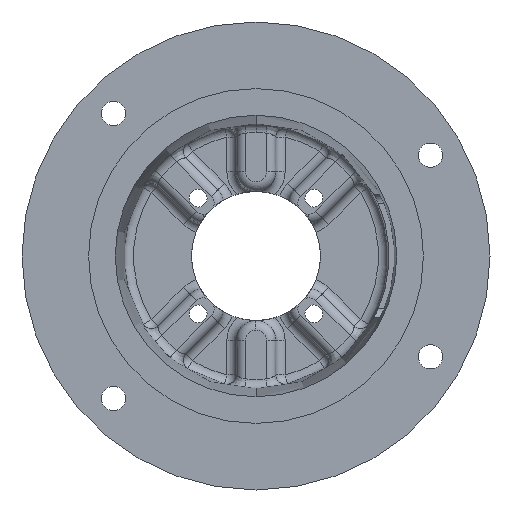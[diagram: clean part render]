
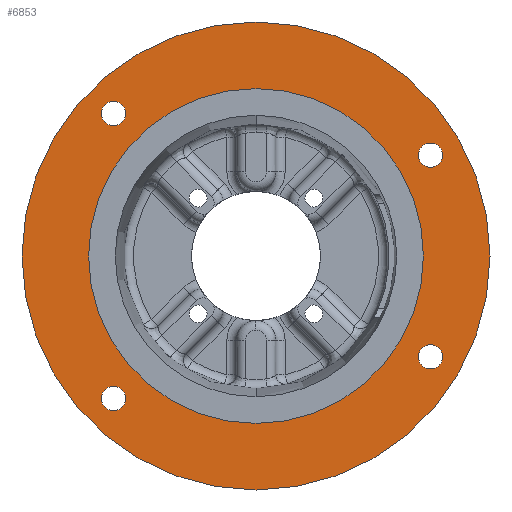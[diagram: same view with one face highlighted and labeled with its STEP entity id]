
A CAD part, front view. The second image highlights one B-rep face of the part: STEP entity #6853.
In plain terms, the highlighted planar face has unit normal (0, -1, 0).
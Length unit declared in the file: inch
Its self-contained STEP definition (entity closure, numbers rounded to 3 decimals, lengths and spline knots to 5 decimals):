
#34 = CARTESIAN_POINT ( 'NONE',  ( 0., 0., 3.2195 ) ) ;
#244 = VERTEX_POINT ( 'NONE', #2734 ) ;
#245 = FACE_BOUND ( 'NONE', #763, .T. ) ;
#247 = AXIS2_PLACEMENT_3D ( 'NONE', #6012, #2789, #6540 ) ;
#256 = AXIS2_PLACEMENT_3D ( 'NONE', #3262, #4335, #1098 ) ;
#288 = CIRCLE ( 'NONE', #1294, 0.23437 ) ;
#356 = DIRECTION ( 'NONE',  ( 0., -1., 0. ) ) ;
#422 = FACE_BOUND ( 'NONE', #1641, .T. ) ;
#434 = EDGE_CURVE ( 'NONE', #5676, #4480, #4771, .T. ) ;
#552 = VERTEX_POINT ( 'NONE', #4528 ) ;
#696 = CARTESIAN_POINT ( 'NONE',  ( -2.74004, 0., 2.74004 ) ) ;
#700 = CARTESIAN_POINT ( 'NONE',  ( -2.74004, 0., -2.74004 ) ) ;
#763 = EDGE_LOOP ( 'NONE', ( #4285, #1160 ) ) ;
#854 = CARTESIAN_POINT ( 'NONE',  ( 0., 0., -3.2195 ) ) ;
#868 = DIRECTION ( 'NONE',  ( 0., -1., 0. ) ) ;
#1035 = AXIS2_PLACEMENT_3D ( 'NONE', #700, #4482, #1240 ) ;
#1098 = DIRECTION ( 'NONE',  ( 0., 0., 1. ) ) ;
#1114 = EDGE_LOOP ( 'NONE', ( #4400, #3376 ) ) ;
#1123 = CARTESIAN_POINT ( 'NONE',  ( 3.35585, 0., -1.9375 ) ) ;
#1156 = CIRCLE ( 'NONE', #4606, 0.23438 ) ;
#1160 = ORIENTED_EDGE ( 'NONE', *, *, #5448, .F. ) ;
#1232 = DIRECTION ( 'NONE',  ( 0., 0., -1. ) ) ;
#1240 = DIRECTION ( 'NONE',  ( 0., 0., -1. ) ) ;
#1287 = EDGE_CURVE ( 'NONE', #552, #2184, #6847, .T. ) ;
#1294 = AXIS2_PLACEMENT_3D ( 'NONE', #5559, #2338, #6104 ) ;
#1575 = CARTESIAN_POINT ( 'NONE',  ( -2.74004, 0., -2.97441 ) ) ;
#1580 = CARTESIAN_POINT ( 'NONE',  ( -2.74004, 0., 2.97441 ) ) ;
#1641 = EDGE_LOOP ( 'NONE', ( #2654, #2058 ) ) ;
#1665 = DIRECTION ( 'NONE',  ( 0., 0., -1. ) ) ;
#1756 = DIRECTION ( 'NONE',  ( 0., -1., 0. ) ) ;
#1804 = AXIS2_PLACEMENT_3D ( 'NONE', #4992, #1756, #5524 ) ;
#1862 = CARTESIAN_POINT ( 'NONE',  ( 0., 0., 0. ) ) ;
#1885 = EDGE_CURVE ( 'NONE', #5402, #244, #6100, .T. ) ;
#1888 = CARTESIAN_POINT ( 'NONE',  ( -2.74004, 0., 2.50566 ) ) ;
#1947 = AXIS2_PLACEMENT_3D ( 'NONE', #1862, #5625, #2410 ) ;
#1988 = VERTEX_POINT ( 'NONE', #1888 ) ;
#2043 = ORIENTED_EDGE ( 'NONE', *, *, #1287, .T. ) ;
#2058 = ORIENTED_EDGE ( 'NONE', *, *, #1885, .F. ) ;
#2122 = EDGE_CURVE ( 'NONE', #4480, #5676, #5211, .T. ) ;
#2184 = VERTEX_POINT ( 'NONE', #6329 ) ;
#2297 = EDGE_CURVE ( 'NONE', #5802, #4602, #3273, .T. ) ;
#2306 = AXIS2_PLACEMENT_3D ( 'NONE', #3603, #356, #4138 ) ;
#2337 = EDGE_CURVE ( 'NONE', #244, #5402, #2765, .T. ) ;
#2338 = DIRECTION ( 'NONE',  ( 0., -1., 0. ) ) ;
#2410 = DIRECTION ( 'NONE',  ( 0., 0., -1. ) ) ;
#2654 = ORIENTED_EDGE ( 'NONE', *, *, #2337, .F. ) ;
#2690 = CARTESIAN_POINT ( 'NONE',  ( 0., 0., 0. ) ) ;
#2705 = EDGE_CURVE ( 'NONE', #4746, #4396, #288, .T. ) ;
#2734 = CARTESIAN_POINT ( 'NONE',  ( 3.35585, 0., -2.17187 ) ) ;
#2765 = CIRCLE ( 'NONE', #6267, 0.23438 ) ;
#2789 = DIRECTION ( 'NONE',  ( 0., -1., 0. ) ) ;
#2797 = CARTESIAN_POINT ( 'NONE',  ( 0., 0., 0. ) ) ;
#3129 = ORIENTED_EDGE ( 'NONE', *, *, #5862, .T. ) ;
#3143 = EDGE_LOOP ( 'NONE', ( #6597, #4689 ) ) ;
#3147 = FACE_BOUND ( 'NONE', #3905, .T. ) ;
#3231 = DIRECTION ( 'NONE',  ( 0., 0., -1. ) ) ;
#3255 = DIRECTION ( 'NONE',  ( 0., -1., 0. ) ) ;
#3262 = CARTESIAN_POINT ( 'NONE',  ( -4.5, 0., 0. ) ) ;
#3273 = CIRCLE ( 'NONE', #4470, 3.2195 ) ;
#3292 = EDGE_CURVE ( 'NONE', #4396, #4746, #4214, .T. ) ;
#3344 = DIRECTION ( 'NONE',  ( 0., 0., -1. ) ) ;
#3376 = ORIENTED_EDGE ( 'NONE', *, *, #2705, .F. ) ;
#3603 = CARTESIAN_POINT ( 'NONE',  ( 3.35585, 0., 1.9375 ) ) ;
#3886 = AXIS2_PLACEMENT_3D ( 'NONE', #1123, #4907, #1665 ) ;
#3905 = EDGE_LOOP ( 'NONE', ( #4974, #5414 ) ) ;
#3929 = VERTEX_POINT ( 'NONE', #1580 ) ;
#4097 = CARTESIAN_POINT ( 'NONE',  ( -2.74004, 0., 2.74004 ) ) ;
#4138 = DIRECTION ( 'NONE',  ( 0., 0., -1. ) ) ;
#4214 = CIRCLE ( 'NONE', #1035, 0.23437 ) ;
#4231 = EDGE_CURVE ( 'NONE', #1988, #3929, #6555, .T. ) ;
#4285 = ORIENTED_EDGE ( 'NONE', *, *, #4231, .F. ) ;
#4335 = DIRECTION ( 'NONE',  ( 0., 1., 0. ) ) ;
#4396 = VERTEX_POINT ( 'NONE', #1575 ) ;
#4397 = FACE_OUTER_BOUND ( 'NONE', #5752, .T. ) ;
#4400 = ORIENTED_EDGE ( 'NONE', *, *, #3292, .F. ) ;
#4470 = AXIS2_PLACEMENT_3D ( 'NONE', #2690, #6440, #3231 ) ;
#4477 = DIRECTION ( 'NONE',  ( 0., -1., 0. ) ) ;
#4480 = VERTEX_POINT ( 'NONE', #5621 ) ;
#4482 = DIRECTION ( 'NONE',  ( 0., -1., 0. ) ) ;
#4528 = CARTESIAN_POINT ( 'NONE',  ( 0., 0., 4.5 ) ) ;
#4602 = VERTEX_POINT ( 'NONE', #854 ) ;
#4606 = AXIS2_PLACEMENT_3D ( 'NONE', #696, #4477, #1232 ) ;
#4652 = DIRECTION ( 'NONE',  ( 0., 0., -1. ) ) ;
#4689 = ORIENTED_EDGE ( 'NONE', *, *, #2297, .F. ) ;
#4746 = VERTEX_POINT ( 'NONE', #6987 ) ;
#4771 = CIRCLE ( 'NONE', #247, 0.23438 ) ;
#4800 = PLANE ( 'NONE',  #256 ) ;
#4907 = DIRECTION ( 'NONE',  ( 0., -1., 0. ) ) ;
#4974 = ORIENTED_EDGE ( 'NONE', *, *, #2122, .F. ) ;
#4992 = CARTESIAN_POINT ( 'NONE',  ( 0., 0., 0. ) ) ;
#5208 = CARTESIAN_POINT ( 'NONE',  ( 3.35585, 0., 2.17188 ) ) ;
#5211 = CIRCLE ( 'NONE', #2306, 0.23438 ) ;
#5234 = AXIS2_PLACEMENT_3D ( 'NONE', #2797, #6546, #3344 ) ;
#5338 = AXIS2_PLACEMENT_3D ( 'NONE', #4097, #868, #4652 ) ;
#5402 = VERTEX_POINT ( 'NONE', #5980 ) ;
#5414 = ORIENTED_EDGE ( 'NONE', *, *, #434, .F. ) ;
#5448 = EDGE_CURVE ( 'NONE', #3929, #1988, #1156, .T. ) ;
#5524 = DIRECTION ( 'NONE',  ( 0., 0., -1. ) ) ;
#5539 = EDGE_CURVE ( 'NONE', #4602, #5802, #5633, .T. ) ;
#5559 = CARTESIAN_POINT ( 'NONE',  ( -2.74004, 0., -2.74004 ) ) ;
#5621 = CARTESIAN_POINT ( 'NONE',  ( 3.35585, 0., 1.70313 ) ) ;
#5625 = DIRECTION ( 'NONE',  ( 0., -1., 0. ) ) ;
#5633 = CIRCLE ( 'NONE', #1947, 3.2195 ) ;
#5676 = VERTEX_POINT ( 'NONE', #5208 ) ;
#5752 = EDGE_LOOP ( 'NONE', ( #3129, #2043 ) ) ;
#5802 = VERTEX_POINT ( 'NONE', #34 ) ;
#5838 = FACE_BOUND ( 'NONE', #3143, .T. ) ;
#5862 = EDGE_CURVE ( 'NONE', #2184, #552, #6965, .T. ) ;
#5980 = CARTESIAN_POINT ( 'NONE',  ( 3.35585, 0., -1.70312 ) ) ;
#6001 = FACE_BOUND ( 'NONE', #1114, .T. ) ;
#6012 = CARTESIAN_POINT ( 'NONE',  ( 3.35585, 0., 1.9375 ) ) ;
#6100 = CIRCLE ( 'NONE', #3886, 0.23438 ) ;
#6104 = DIRECTION ( 'NONE',  ( 0., 0., -1. ) ) ;
#6267 = AXIS2_PLACEMENT_3D ( 'NONE', #6457, #3255, #6996 ) ;
#6329 = CARTESIAN_POINT ( 'NONE',  ( 0., 0., -4.5 ) ) ;
#6440 = DIRECTION ( 'NONE',  ( 0., -1., 0. ) ) ;
#6457 = CARTESIAN_POINT ( 'NONE',  ( 3.35585, 0., -1.9375 ) ) ;
#6540 = DIRECTION ( 'NONE',  ( 0., 0., -1. ) ) ;
#6546 = DIRECTION ( 'NONE',  ( 0., -1., 0. ) ) ;
#6555 = CIRCLE ( 'NONE', #5338, 0.23438 ) ;
#6597 = ORIENTED_EDGE ( 'NONE', *, *, #5539, .F. ) ;
#6847 = CIRCLE ( 'NONE', #5234, 4.5 ) ;
#6853 = ADVANCED_FACE ( 'NONE', ( #3147, #422, #6001, #245, #5838, #4397 ), #4800, .F. ) ;
#6965 = CIRCLE ( 'NONE', #1804, 4.5 ) ;
#6987 = CARTESIAN_POINT ( 'NONE',  ( -2.74004, 0., -2.50566 ) ) ;
#6996 = DIRECTION ( 'NONE',  ( 0., 0., -1. ) ) ;
